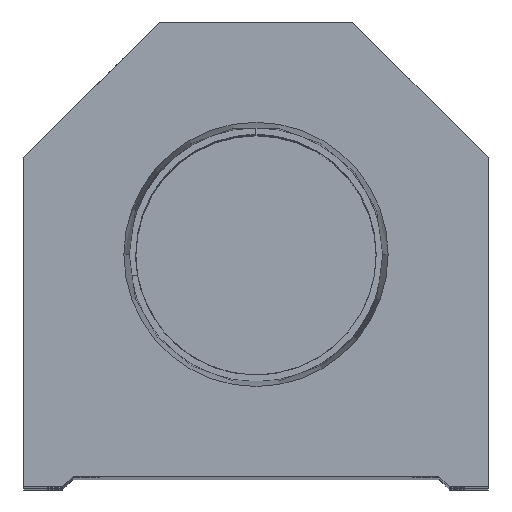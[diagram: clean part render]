
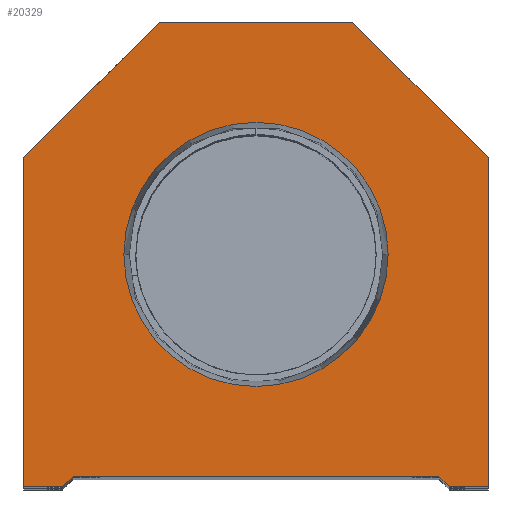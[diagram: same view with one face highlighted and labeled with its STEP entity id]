
A CAD part, top view. The second image highlights one B-rep face of the part: STEP entity #20329.
In plain terms, the highlighted planar face has unit normal (0, 0, 1).
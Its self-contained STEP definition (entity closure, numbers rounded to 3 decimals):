
#487 = CARTESIAN_POINT ( 'NONE',  ( 17.5, 1., 0. ) ) ;
#786 = ORIENTED_EDGE ( 'NONE', *, *, #14789, .T. ) ;
#926 = VERTEX_POINT ( 'NONE', #18714 ) ;
#970 = LINE ( 'NONE', #2939, #8293 ) ;
#1553 = AXIS2_PLACEMENT_3D ( 'NONE', #19685, #9427, #14915 ) ;
#1600 = CARTESIAN_POINT ( 'NONE',  ( 9.25, 44.5, 0. ) ) ;
#1680 = VERTEX_POINT ( 'NONE', #14466 ) ;
#1710 = LINE ( 'NONE', #9774, #3900 ) ;
#2420 = DIRECTION ( 'NONE',  ( 1., 0., 0. ) ) ;
#2606 = VECTOR ( 'NONE', #13204, 1000. ) ;
#2745 = VECTOR ( 'NONE', #20419, 1000. ) ;
#2939 = CARTESIAN_POINT ( 'NONE',  ( -17.5, 0., 0. ) ) ;
#2980 = AXIS2_PLACEMENT_3D ( 'NONE', #13552, #13032, #18191 ) ;
#3701 = CARTESIAN_POINT ( 'NONE',  ( 9.25, 44.5, 0. ) ) ;
#3900 = VECTOR ( 'NONE', #15328, 1000. ) ;
#3960 = VECTOR ( 'NONE', #21395, 1000. ) ;
#4077 = FACE_OUTER_BOUND ( 'NONE', #17172, .T. ) ;
#4113 = LINE ( 'NONE', #9175, #20378 ) ;
#4560 = VECTOR ( 'NONE', #6671, 1000. ) ;
#4574 = EDGE_CURVE ( 'NONE', #22069, #16833, #16886, .T. ) ;
#4578 = VERTEX_POINT ( 'NONE', #17219 ) ;
#4597 = LINE ( 'NONE', #11079, #2606 ) ;
#4875 = EDGE_CURVE ( 'NONE', #20240, #6635, #16176, .T. ) ;
#4962 = CARTESIAN_POINT ( 'NONE',  ( -18.5, 0., 0. ) ) ;
#5197 = EDGE_CURVE ( 'NONE', #14806, #20256, #970, .T. ) ;
#5307 = ORIENTED_EDGE ( 'NONE', *, *, #21339, .T. ) ;
#5483 = CARTESIAN_POINT ( 'NONE',  ( -22.25, 31.5, 0. ) ) ;
#5818 = ORIENTED_EDGE ( 'NONE', *, *, #4574, .T. ) ;
#6234 = CARTESIAN_POINT ( 'NONE',  ( -12.647, 22.25, 0. ) ) ;
#6635 = VERTEX_POINT ( 'NONE', #6234 ) ;
#6671 = DIRECTION ( 'NONE',  ( -1., 0., 0. ) ) ;
#7310 = ORIENTED_EDGE ( 'NONE', *, *, #10343, .T. ) ;
#7652 = DIRECTION ( 'NONE',  ( -0.707, 0.707, 0. ) ) ;
#7751 = CARTESIAN_POINT ( 'NONE',  ( 22.25, 0., 0. ) ) ;
#8293 = VECTOR ( 'NONE', #9748, 1000. ) ;
#9005 = VECTOR ( 'NONE', #7652, 1000. ) ;
#9175 = CARTESIAN_POINT ( 'NONE',  ( -17.5, 1., 0. ) ) ;
#9301 = LINE ( 'NONE', #16119, #17051 ) ;
#9427 = DIRECTION ( 'NONE',  ( 0., 0., 1. ) ) ;
#9748 = DIRECTION ( 'NONE',  ( 1., 0., 0. ) ) ;
#9774 = CARTESIAN_POINT ( 'NONE',  ( -22.25, 0., 0. ) ) ;
#10033 = EDGE_CURVE ( 'NONE', #1680, #22069, #21625, .T. ) ;
#10088 = LINE ( 'NONE', #13545, #15986 ) ;
#10311 = EDGE_CURVE ( 'NONE', #6635, #20240, #12927, .T. ) ;
#10343 = EDGE_CURVE ( 'NONE', #21275, #1680, #4597, .T. ) ;
#10657 = ORIENTED_EDGE ( 'NONE', *, *, #10311, .F. ) ;
#10721 = AXIS2_PLACEMENT_3D ( 'NONE', #15704, #16036, #2420 ) ;
#11079 = CARTESIAN_POINT ( 'NONE',  ( 22.25, 0., 0. ) ) ;
#11318 = CARTESIAN_POINT ( 'NONE',  ( 17.5, 0., 0. ) ) ;
#11399 = CARTESIAN_POINT ( 'NONE',  ( -22.25, 0., 0. ) ) ;
#12083 = EDGE_CURVE ( 'NONE', #20256, #926, #13598, .T. ) ;
#12669 = FACE_BOUND ( 'NONE', #17263, .T. ) ;
#12927 = CIRCLE ( 'NONE', #1553, 12.647 ) ;
#13006 = LINE ( 'NONE', #11318, #3960 ) ;
#13032 = DIRECTION ( 'NONE',  ( 0., 0., 1. ) ) ;
#13204 = DIRECTION ( 'NONE',  ( 0., 1., 0. ) ) ;
#13545 = CARTESIAN_POINT ( 'NONE',  ( 9.25, 9.25, 0. ) ) ;
#13552 = CARTESIAN_POINT ( 'NONE',  ( 0., 22.25, 0. ) ) ;
#13598 = LINE ( 'NONE', #21772, #2745 ) ;
#13729 = ORIENTED_EDGE ( 'NONE', *, *, #14559, .T. ) ;
#14466 = CARTESIAN_POINT ( 'NONE',  ( 22.25, 31.5, 0. ) ) ;
#14559 = EDGE_CURVE ( 'NONE', #16539, #4578, #10088, .T. ) ;
#14789 = EDGE_CURVE ( 'NONE', #16833, #17844, #9301, .T. ) ;
#14806 = VERTEX_POINT ( 'NONE', #11399 ) ;
#14825 = CARTESIAN_POINT ( 'NONE',  ( 22.25, 31.5, 0. ) ) ;
#14915 = DIRECTION ( 'NONE',  ( 1., 0., 0. ) ) ;
#15002 = DIRECTION ( 'NONE',  ( -0.707, -0.707, 0. ) ) ;
#15328 = DIRECTION ( 'NONE',  ( 0., -1., 0. ) ) ;
#15704 = CARTESIAN_POINT ( 'NONE',  ( 0., 0., 0. ) ) ;
#15879 = ORIENTED_EDGE ( 'NONE', *, *, #4875, .F. ) ;
#15986 = VECTOR ( 'NONE', #20361, 1000. ) ;
#16036 = DIRECTION ( 'NONE',  ( 0., 0., 1. ) ) ;
#16042 = EDGE_CURVE ( 'NONE', #17844, #14806, #1710, .T. ) ;
#16119 = CARTESIAN_POINT ( 'NONE',  ( -22.25, 31.5, 0. ) ) ;
#16176 = CIRCLE ( 'NONE', #2980, 12.647 ) ;
#16539 = VERTEX_POINT ( 'NONE', #487 ) ;
#16822 = CARTESIAN_POINT ( 'NONE',  ( 12.647, 22.25, 0. ) ) ;
#16833 = VERTEX_POINT ( 'NONE', #19687 ) ;
#16886 = LINE ( 'NONE', #1600, #4560 ) ;
#16888 = ORIENTED_EDGE ( 'NONE', *, *, #12083, .T. ) ;
#17051 = VECTOR ( 'NONE', #15002, 1000. ) ;
#17153 = ORIENTED_EDGE ( 'NONE', *, *, #16042, .T. ) ;
#17172 = EDGE_LOOP ( 'NONE', ( #17676, #16888, #18683, #13729, #5307, #7310, #20497, #5818, #786, #17153 ) ) ;
#17219 = CARTESIAN_POINT ( 'NONE',  ( 18.5, 0., 0. ) ) ;
#17263 = EDGE_LOOP ( 'NONE', ( #15879, #10657 ) ) ;
#17388 = PLANE ( 'NONE',  #10721 ) ;
#17676 = ORIENTED_EDGE ( 'NONE', *, *, #5197, .T. ) ;
#17771 = DIRECTION ( 'NONE',  ( 1., 0., 0. ) ) ;
#17844 = VERTEX_POINT ( 'NONE', #5483 ) ;
#18191 = DIRECTION ( 'NONE',  ( 1., 0., 0. ) ) ;
#18683 = ORIENTED_EDGE ( 'NONE', *, *, #19468, .T. ) ;
#18714 = CARTESIAN_POINT ( 'NONE',  ( -17.5, 1., 0. ) ) ;
#19468 = EDGE_CURVE ( 'NONE', #926, #16539, #4113, .T. ) ;
#19685 = CARTESIAN_POINT ( 'NONE',  ( 0., 22.25, 0. ) ) ;
#19687 = CARTESIAN_POINT ( 'NONE',  ( -9.25, 44.5, 0. ) ) ;
#20240 = VERTEX_POINT ( 'NONE', #16822 ) ;
#20256 = VERTEX_POINT ( 'NONE', #4962 ) ;
#20329 = ADVANCED_FACE ( 'NONE', ( #12669, #4077 ), #17388, .T. ) ;
#20361 = DIRECTION ( 'NONE',  ( 0.707, -0.707, 0. ) ) ;
#20378 = VECTOR ( 'NONE', #17771, 1000. ) ;
#20419 = DIRECTION ( 'NONE',  ( 0.707, 0.707, 0. ) ) ;
#20497 = ORIENTED_EDGE ( 'NONE', *, *, #10033, .T. ) ;
#21275 = VERTEX_POINT ( 'NONE', #7751 ) ;
#21339 = EDGE_CURVE ( 'NONE', #4578, #21275, #13006, .T. ) ;
#21395 = DIRECTION ( 'NONE',  ( 1., 0., 0. ) ) ;
#21625 = LINE ( 'NONE', #14825, #9005 ) ;
#21772 = CARTESIAN_POINT ( 'NONE',  ( -9.25, 9.25, 0. ) ) ;
#22069 = VERTEX_POINT ( 'NONE', #3701 ) ;
